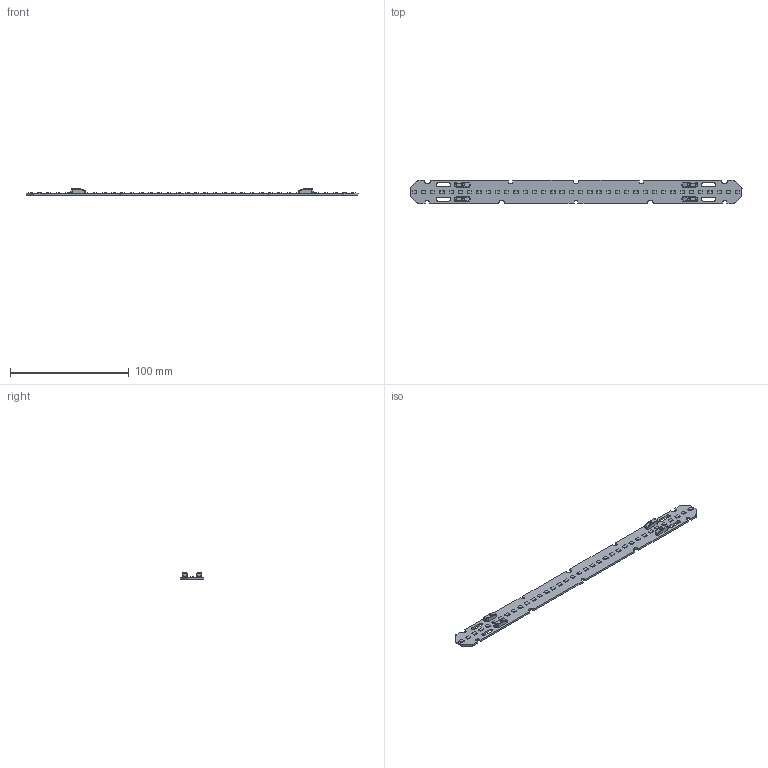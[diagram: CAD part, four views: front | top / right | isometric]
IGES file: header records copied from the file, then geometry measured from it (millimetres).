
Start section: SolidWorks IGES file using analytic representation for surfaces
Global section: file name: D:\ECTR_TEMP\OLQ-batchEngine\queue\temp\4162936swm000.igs; native system: SolidWorks 2017; preprocessor: SolidWorks 2017; author: SYSTEM; date: 200214.162434; units: millimetre
Bounding box: 279.5 x 20 x 5.55 mm (x, y, z)
Surface area: 13575.1 mm2 (no closed solid volume)
Topology: 0 solids, 0 shells, 1130 faces, 7452 edges, 7448 vertices
Faces by surface type: bspline 956, revolution 174
